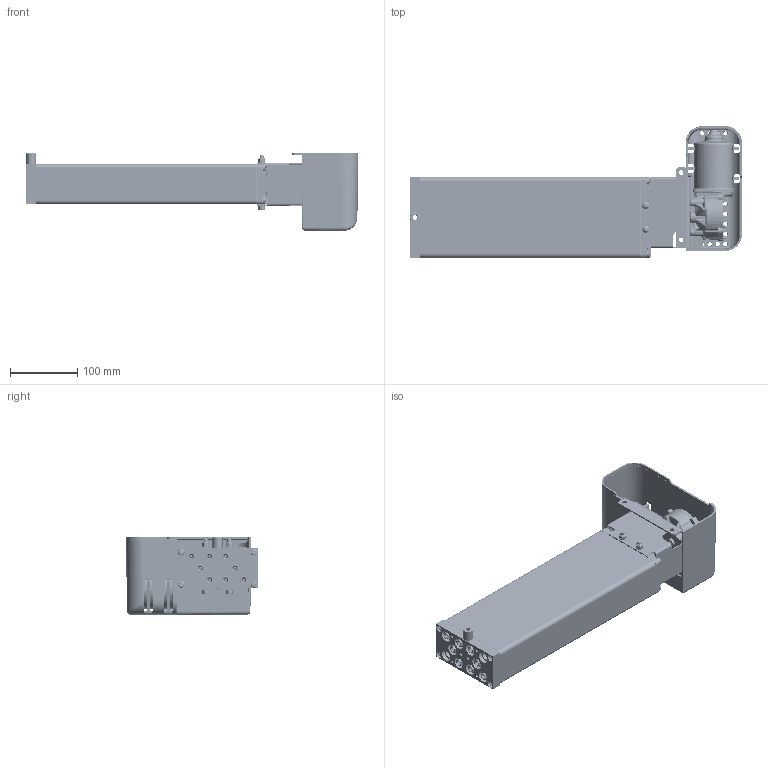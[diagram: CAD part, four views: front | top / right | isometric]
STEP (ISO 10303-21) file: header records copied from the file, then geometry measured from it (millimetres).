
FILE_DESCRIPTION(/* description */ ('Unknown'),/* implementation_level */ '2;1');
FILE_NAME(/* name */ '3X2.20202 Pumpe PB 8820 W mit Antrieb',/* time_stamp */ '2016-11-14T17:34:44+01:00',/* author */ ('Unknown'),/* organization */ ('Unknown'),/* preprocessor_version */ 'ST-DEVELOPER v16.7',/* originating_system */ 'DEX',/* authorisation */ $);
FILE_SCHEMA (('AUTOMOTIVE_DESIGN {1 0 10303 214 3 1 1}'));
Products named in the file (33): 102.00202; 115.10032; 125.00061; 115.00008; 142.00021; 125.00021; 142.00013; 125.00142; 115.00140; 126.00006; 122.00040; 119.00042; 126.00036; 127.00201; 127.00200; 127.00023; 124.00090; Getriebe; Ring; Schraube; Stator; Abdeckplatte; Antriebswelle; 128.00051; 123.00031; 142.00018; 142.00019; 142.00025; 142.00131; 123.00029; 142.00057; 142.00083; 142.00017
Assembly tree (55 placements, depth 3):
  102.00202
    115.10032  x8
      125.00061
      115.00008
      142.00021
      125.00021
    142.00013  x8
    125.00142
    115.00140
      126.00006
      122.00040
    119.00042
    126.00036
    127.00201
      127.00200
      127.00023
    124.00090
      Getriebe
      Ring
      Schraube
      Stator
      Abdeckplatte
      Antriebswelle
    128.00051
    123.00031
    142.00018  x2
    142.00019  x2
    142.00025  x2
    142.00131  x3
    123.00029
    142.00057
    142.00083  x4
    142.00017  x2
Bounding box: 494.45 x 196.04 x 115.45 mm (x, y, z)
Volume: 1004419.7 mm3; surface area: 627709.9 mm2
Topology: 64 solids, 66 shells, 4422 faces, 11062 edges, 6781 vertices
Faces by surface type: plane 1395, cylinder 1190, bspline 1040, cone 495, torus 204, sphere 98
Full cylindrical faces by diameter (mm): 2.5 x4, 3.2 x4, 3.5 x8, 3.9 x5, 4.1 x8, 4.134 x4, 4.2 x10, 4.4 x5, 4.5 x1, 4.917 x4, 5 x12, 5.5 x5, 5.8 x4, 6 x8, 6.4 x2, 6.8 x6, 6.917 x16, 7 x1, 8 x18, 8.5 x10, 9 x2, 9.5 x1, 9.8 x8, 10 x10, 10.3 x1, 10.32 x1, 10.4 x1, 10.5 x4, 11 x5, 12.5 x8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
Entity records: 165442 total; most frequent: CARTESIAN_POINT 80683, ORIENTED_EDGE 16058, DIRECTION 12093, EDGE_CURVE 8029, VERTEX_POINT 5273, AXIS2_PLACEMENT_3D 4681, FACE_BOUND 4022, EDGE_LOOP 4017
